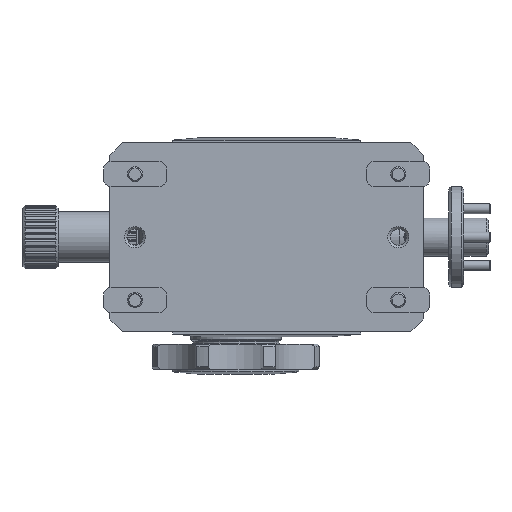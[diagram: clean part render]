
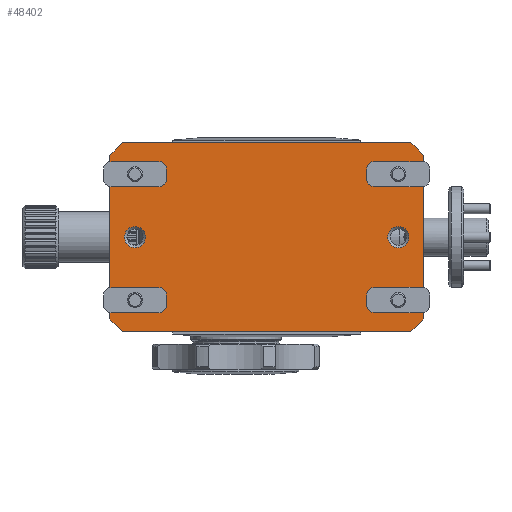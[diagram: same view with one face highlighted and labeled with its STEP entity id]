
A CAD part, front view. The second image highlights one B-rep face of the part: STEP entity #48402.
In plain terms, the highlighted planar face has unit normal (0, -1, 0).
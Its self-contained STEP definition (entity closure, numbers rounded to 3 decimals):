
#1485=FACE_BOUND('',#8194,.T.);
#1486=FACE_BOUND('',#8195,.T.);
#1487=FACE_BOUND('',#8196,.T.);
#1488=FACE_BOUND('',#8197,.T.);
#1489=FACE_BOUND('',#8198,.T.);
#1490=FACE_BOUND('',#8199,.T.);
#1762=PLANE('',#52153);
#5488=FACE_OUTER_BOUND('',#8193,.T.);
#8193=EDGE_LOOP('',(#33233,#33234,#33235,#33236,#33237,#33238,#33239,#33240));
#8194=EDGE_LOOP('',(#33241,#33242));
#8195=EDGE_LOOP('',(#33243,#33244));
#8196=EDGE_LOOP('',(#33245,#33246));
#8197=EDGE_LOOP('',(#33247,#33248));
#8198=EDGE_LOOP('',(#33249,#33250));
#8199=EDGE_LOOP('',(#33251,#33252));
#11198=LINE('',#70173,#14560);
#11199=LINE('',#70175,#14561);
#11200=LINE('',#70177,#14562);
#11201=LINE('',#70179,#14563);
#11202=LINE('',#70181,#14564);
#11203=LINE('',#70183,#14565);
#11204=LINE('',#70185,#14566);
#11205=LINE('',#70186,#14567);
#14560=VECTOR('',#57199,1000.);
#14561=VECTOR('',#57200,1000.);
#14562=VECTOR('',#57201,1000.);
#14563=VECTOR('',#57202,1000.);
#14564=VECTOR('',#57203,1000.);
#14565=VECTOR('',#57204,1000.);
#14566=VECTOR('',#57205,1000.);
#14567=VECTOR('',#57206,1000.);
#17872=CIRCLE('',#52021,4.2);
#17873=CIRCLE('',#52022,4.2);
#17876=CIRCLE('',#52026,4.2);
#17877=CIRCLE('',#52027,4.2);
#17880=CIRCLE('',#52031,4.2);
#17881=CIRCLE('',#52032,4.2);
#17884=CIRCLE('',#52036,4.2);
#17885=CIRCLE('',#52037,4.2);
#17888=CIRCLE('',#52041,4.2);
#17889=CIRCLE('',#52042,4.2);
#17892=CIRCLE('',#52046,4.2);
#17893=CIRCLE('',#52047,4.2);
#20136=VERTEX_POINT('',#69774);
#20137=VERTEX_POINT('',#69776);
#20140=VERTEX_POINT('',#69784);
#20141=VERTEX_POINT('',#69786);
#20144=VERTEX_POINT('',#69794);
#20145=VERTEX_POINT('',#69796);
#20148=VERTEX_POINT('',#69804);
#20149=VERTEX_POINT('',#69806);
#20152=VERTEX_POINT('',#69814);
#20153=VERTEX_POINT('',#69816);
#20156=VERTEX_POINT('',#69824);
#20157=VERTEX_POINT('',#69826);
#20274=VERTEX_POINT('',#70171);
#20275=VERTEX_POINT('',#70172);
#20276=VERTEX_POINT('',#70174);
#20277=VERTEX_POINT('',#70176);
#20278=VERTEX_POINT('',#70178);
#20279=VERTEX_POINT('',#70180);
#20280=VERTEX_POINT('',#70182);
#20281=VERTEX_POINT('',#70184);
#25325=EDGE_CURVE('',#20137,#20136,#17872,.T.);
#25326=EDGE_CURVE('',#20136,#20137,#17873,.T.);
#25330=EDGE_CURVE('',#20141,#20140,#17876,.T.);
#25331=EDGE_CURVE('',#20140,#20141,#17877,.T.);
#25335=EDGE_CURVE('',#20145,#20144,#17880,.T.);
#25336=EDGE_CURVE('',#20144,#20145,#17881,.T.);
#25340=EDGE_CURVE('',#20149,#20148,#17884,.T.);
#25341=EDGE_CURVE('',#20148,#20149,#17885,.T.);
#25345=EDGE_CURVE('',#20153,#20152,#17888,.T.);
#25346=EDGE_CURVE('',#20152,#20153,#17889,.T.);
#25350=EDGE_CURVE('',#20157,#20156,#17892,.T.);
#25351=EDGE_CURVE('',#20156,#20157,#17893,.T.);
#25494=EDGE_CURVE('',#20274,#20275,#11198,.T.);
#25495=EDGE_CURVE('',#20275,#20276,#11199,.T.);
#25496=EDGE_CURVE('',#20277,#20276,#11200,.T.);
#25497=EDGE_CURVE('',#20277,#20278,#11201,.T.);
#25498=EDGE_CURVE('',#20278,#20279,#11202,.T.);
#25499=EDGE_CURVE('',#20279,#20280,#11203,.T.);
#25500=EDGE_CURVE('',#20281,#20280,#11204,.T.);
#25501=EDGE_CURVE('',#20281,#20274,#11205,.T.);
#33233=ORIENTED_EDGE('',*,*,#25494,.T.);
#33234=ORIENTED_EDGE('',*,*,#25495,.T.);
#33235=ORIENTED_EDGE('',*,*,#25496,.F.);
#33236=ORIENTED_EDGE('',*,*,#25497,.T.);
#33237=ORIENTED_EDGE('',*,*,#25498,.T.);
#33238=ORIENTED_EDGE('',*,*,#25499,.T.);
#33239=ORIENTED_EDGE('',*,*,#25500,.F.);
#33240=ORIENTED_EDGE('',*,*,#25501,.T.);
#33241=ORIENTED_EDGE('',*,*,#25350,.T.);
#33242=ORIENTED_EDGE('',*,*,#25351,.T.);
#33243=ORIENTED_EDGE('',*,*,#25345,.T.);
#33244=ORIENTED_EDGE('',*,*,#25346,.T.);
#33245=ORIENTED_EDGE('',*,*,#25340,.T.);
#33246=ORIENTED_EDGE('',*,*,#25341,.T.);
#33247=ORIENTED_EDGE('',*,*,#25335,.T.);
#33248=ORIENTED_EDGE('',*,*,#25336,.T.);
#33249=ORIENTED_EDGE('',*,*,#25330,.T.);
#33250=ORIENTED_EDGE('',*,*,#25331,.T.);
#33251=ORIENTED_EDGE('',*,*,#25325,.T.);
#33252=ORIENTED_EDGE('',*,*,#25326,.T.);
#48402=ADVANCED_FACE('',(#5488,#1485,#1486,#1487,#1488,#1489,#1490),#1762,
 .F.);
#52021=AXIS2_PLACEMENT_3D('',#69777,#56858,#56859);
#52022=AXIS2_PLACEMENT_3D('',#69778,#56860,#56861);
#52026=AXIS2_PLACEMENT_3D('',#69787,#56869,#56870);
#52027=AXIS2_PLACEMENT_3D('',#69788,#56871,#56872);
#52031=AXIS2_PLACEMENT_3D('',#69797,#56880,#56881);
#52032=AXIS2_PLACEMENT_3D('',#69798,#56882,#56883);
#52036=AXIS2_PLACEMENT_3D('',#69807,#56891,#56892);
#52037=AXIS2_PLACEMENT_3D('',#69808,#56893,#56894);
#52041=AXIS2_PLACEMENT_3D('',#69817,#56902,#56903);
#52042=AXIS2_PLACEMENT_3D('',#69818,#56904,#56905);
#52046=AXIS2_PLACEMENT_3D('',#69827,#56913,#56914);
#52047=AXIS2_PLACEMENT_3D('',#69828,#56915,#56916);
#52153=AXIS2_PLACEMENT_3D('',#70170,#57197,#57198);
#56858=DIRECTION('center_axis',(0.,1.,0.));
#56859=DIRECTION('ref_axis',(-1.,0.,0.));
#56860=DIRECTION('center_axis',(0.,1.,0.));
#56861=DIRECTION('ref_axis',(-1.,0.,0.));
#56869=DIRECTION('center_axis',(0.,1.,0.));
#56870=DIRECTION('ref_axis',(-1.,0.,0.));
#56871=DIRECTION('center_axis',(0.,1.,0.));
#56872=DIRECTION('ref_axis',(-1.,0.,0.));
#56880=DIRECTION('center_axis',(0.,1.,0.));
#56881=DIRECTION('ref_axis',(-1.,0.,0.));
#56882=DIRECTION('center_axis',(0.,1.,0.));
#56883=DIRECTION('ref_axis',(-1.,0.,0.));
#56891=DIRECTION('center_axis',(0.,1.,0.));
#56892=DIRECTION('ref_axis',(-1.,0.,0.));
#56893=DIRECTION('center_axis',(0.,1.,0.));
#56894=DIRECTION('ref_axis',(-1.,0.,0.));
#56902=DIRECTION('center_axis',(0.,1.,0.));
#56903=DIRECTION('ref_axis',(-1.,0.,0.));
#56904=DIRECTION('center_axis',(0.,1.,0.));
#56905=DIRECTION('ref_axis',(-1.,0.,0.));
#56913=DIRECTION('center_axis',(0.,1.,0.));
#56914=DIRECTION('ref_axis',(-1.,0.,0.));
#56915=DIRECTION('center_axis',(0.,1.,0.));
#56916=DIRECTION('ref_axis',(-1.,0.,0.));
#57197=DIRECTION('center_axis',(0.,1.,0.));
#57198=DIRECTION('ref_axis',(-1.,0.,0.));
#57199=DIRECTION('',(0.,0.,1.));
#57200=DIRECTION('',(-0.707,0.,0.707));
#57201=DIRECTION('',(1.,0.,0.));
#57202=DIRECTION('',(-0.707,0.,-0.707));
#57203=DIRECTION('',(0.,0.,-1.));
#57204=DIRECTION('',(0.707,0.,-0.707));
#57205=DIRECTION('',(-1.,0.,0.));
#57206=DIRECTION('',(0.707,0.,0.707));
#69774=CARTESIAN_POINT('',(-40.,-84.,29.2));
#69776=CARTESIAN_POINT('',(-40.,-84.,20.8));
#69777=CARTESIAN_POINT('Origin',(-40.,-84.,25.));
#69778=CARTESIAN_POINT('Origin',(-40.,-84.,25.));
#69784=CARTESIAN_POINT('',(-40.,-84.,4.2));
#69786=CARTESIAN_POINT('',(-40.,-84.,-4.2));
#69787=CARTESIAN_POINT('Origin',(-40.,-84.,0.));
#69788=CARTESIAN_POINT('Origin',(-40.,-84.,0.));
#69794=CARTESIAN_POINT('',(-40.,-84.,-20.8));
#69796=CARTESIAN_POINT('',(-40.,-84.,-29.2));
#69797=CARTESIAN_POINT('Origin',(-40.,-84.,-25.));
#69798=CARTESIAN_POINT('Origin',(-40.,-84.,-25.));
#69804=CARTESIAN_POINT('',(64.5,-84.,-20.8));
#69806=CARTESIAN_POINT('',(64.5,-84.,-29.2));
#69807=CARTESIAN_POINT('Origin',(64.5,-84.,-25.));
#69808=CARTESIAN_POINT('Origin',(64.5,-84.,-25.));
#69814=CARTESIAN_POINT('',(64.5,-84.,4.2));
#69816=CARTESIAN_POINT('',(64.5,-84.,-4.2));
#69817=CARTESIAN_POINT('Origin',(64.5,-84.,0.));
#69818=CARTESIAN_POINT('Origin',(64.5,-84.,0.));
#69824=CARTESIAN_POINT('',(64.5,-84.,29.2));
#69826=CARTESIAN_POINT('',(64.5,-84.,20.8));
#69827=CARTESIAN_POINT('Origin',(64.5,-84.,25.));
#69828=CARTESIAN_POINT('Origin',(64.5,-84.,25.));
#70170=CARTESIAN_POINT('Origin',(0.,-84.,25.));
#70171=CARTESIAN_POINT('',(74.5,-84.,-32.5));
#70172=CARTESIAN_POINT('',(74.5,-84.,32.5));
#70173=CARTESIAN_POINT('',(74.5,-84.,37.5));
#70174=CARTESIAN_POINT('',(69.5,-84.,37.5));
#70175=CARTESIAN_POINT('',(74.5,-84.,32.5));
#70176=CARTESIAN_POINT('',(-45.,-84.,37.5));
#70177=CARTESIAN_POINT('',(54.5,-84.,37.5));
#70178=CARTESIAN_POINT('',(-50.,-84.,32.5));
#70179=CARTESIAN_POINT('',(-45.,-84.,37.5));
#70180=CARTESIAN_POINT('',(-50.,-84.,-32.5));
#70181=CARTESIAN_POINT('',(-50.,-84.,37.5));
#70182=CARTESIAN_POINT('',(-45.,-84.,-37.5));
#70183=CARTESIAN_POINT('',(-50.,-84.,-32.5));
#70184=CARTESIAN_POINT('',(69.5,-84.,-37.5));
#70185=CARTESIAN_POINT('',(54.5,-84.,-37.5));
#70186=CARTESIAN_POINT('',(69.5,-84.,-37.5));
